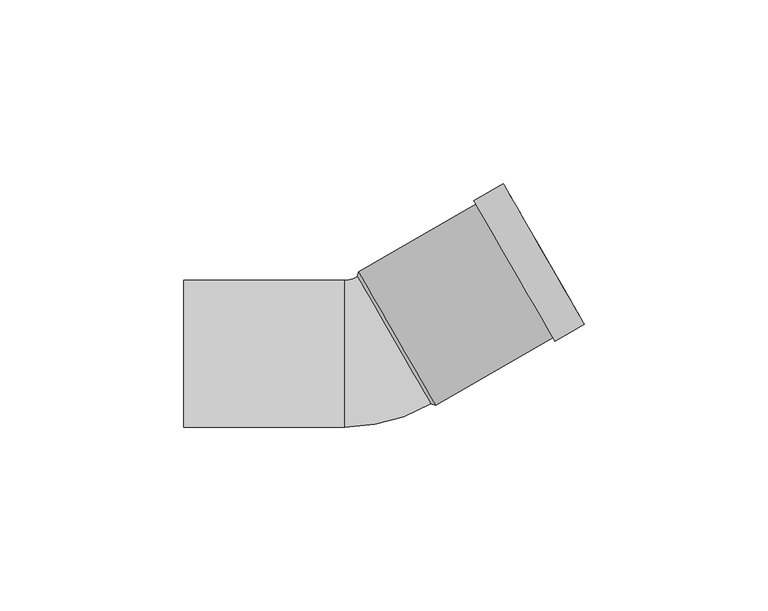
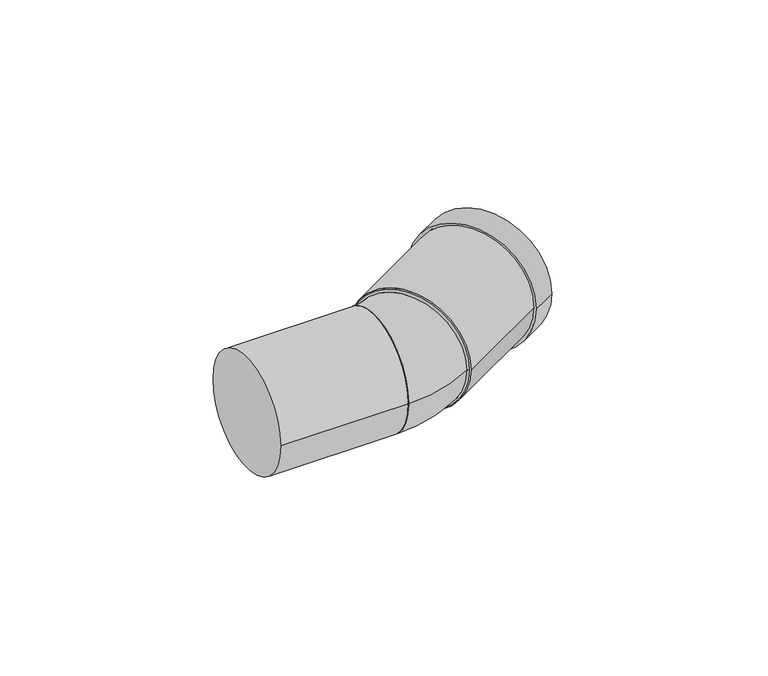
"""IFC4 building model written with IfcOpenShell, lengths in millimetres: pipe fitting geometry, Superdrain HT bend : Superdrain HT Bend."""

from ifc_helpers import new_model, si_unit, point, frame, origin, origin_2d, place, context, project, spatial, polyline, circle_curve, ellipse_curve, trimmed, segment, composite_curve, outline, extrude, source, transform, mapped, element, save
from ifc_brep_helpers import plane_surface, revolved_surface, advanced_brep


def pipe_fitting_0d2e54e3(model_context):
    return source(origin(), model_context, "Body", "SolidModel", [
        advanced_brep(
        [(16.2353829, -13.7205081, 0.0), (-3.7646171, 20.9205081, 0.0), (-7.2, -20.0, 0.0), (-7.2, 20.0, 0.0)],
        [
            (0, 1, circle_curve(frame((6.2353829, 3.6, 0.0), z_axis=(0.866025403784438, 0.5000000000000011, 0.0), x_axis=(-0.5000000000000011, 0.866025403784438, 0.0)), 20.0)),
            (1, 0, circle_curve(frame((6.2353829, 3.6, 0.0), z_axis=(0.8660254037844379, 0.5000000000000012, 0.0), x_axis=(-0.5000000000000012, 0.8660254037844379, 0.0)), 20.0)),
            (2, 3, circle_curve(frame((-7.2, 0.0, 0.0), z_axis=(-1.0, 0.0, 0.0), x_axis=(0.0, 1.0, 0.0)), 20.0)),
            (3, 2, circle_curve(frame((-7.2, 0.0, 0.0), z_axis=(-1.0, 0.0, 0.0), x_axis=(0.0, 1.0, 0.0)), 20.0)),
            (3, 1, circle_curve(frame((-7.2, 26.8707658, 0.0), z_axis=(0.0, 0.0, 1.0), x_axis=(1.0, 0.0, 0.0)), 6.8707658)),
            (0, 2, circle_curve(frame((-7.2, 26.8707658, 0.0), z_axis=(0.0, 0.0, -1.0), x_axis=(1.0, 0.0, 0.0)), 46.8707658)),
        ],
        [
            plane_surface(frame((6.2353829, 3.6, 0.0), z_axis=(0.866025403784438, 0.5000000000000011, 0.0), x_axis=(0.0, 0.0, -1.0))),
            plane_surface(frame((-7.2, 0.0, 0.0), z_axis=(-1.0, 0.0, 0.0), x_axis=(0.0, 0.0, -1.0))),
            revolved_surface(trimmed(ellipse_curve(frame((19.6707658, 26.8707658, 0.0), z_axis=(0.0, -1.0, 0.0), x_axis=(-1.0, 0.0, 0.0)), 20.0, 20.0), [point((-0.3292342, 26.8707658, 0.0))], [point((39.6707658, 26.8707658, 0.0))], True, "CARTESIAN"), (-7.2, 26.8707658, 0.0), (0.0, 0.0, 1.0)),
            revolved_surface(trimmed(ellipse_curve(frame((19.6707658, 26.8707658, 0.0), z_axis=(0.0, -1.0, 0.0), x_axis=(-1.0, 0.0, 0.0)), 20.0, 20.0), [point((39.6707658, 26.8707658, 0.0))], [point((-0.3292342, 26.8707658, 0.0))], True, "CARTESIAN"), (-7.2, 26.8707658, 0.0), (0.0, 0.0, 1.0)),
        ],
        [
            (0, [[1, 2]]),
            (1, [[3, 4]]),
            (2, [[-4, 5, -1, 6]]),
            (3, [[-3, -6, -2, -5]]),
        ],
    ),
        extrude(outline(composite_curve([segment(trimmed(circle_curve(origin_2d(), 21.0), [point((0.0, 21.0))], [point((0.0, -21.0))], False, "CARTESIAN"), True, "CONTINUOUS"), segment(trimmed(circle_curve(origin_2d(), 21.0), [point((0.0, -21.0))], [point((0.0, 21.0))], False, "CARTESIAN"), True, "CONTINUOUS")], self_intersect=False), holes=[composite_curve([segment(trimmed(circle_curve(origin_2d(), 20.0), [point((0.0, 20.0))], [point((0.0, -20.0))], True, "CARTESIAN"), True, "CONTINUOUS"), segment(trimmed(circle_curve(origin_2d(), 20.0), [point((0.0, -20.0))], [point((0.0, 20.0))], True, "CARTESIAN"), True, "CONTINUOUS")], self_intersect=False)]), frame((7.1014083, 4.1, 0.0), z_axis=(0.866025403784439, 0.4999999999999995, 0.0), x_axis=(0.0, 0.0, 1.0)), (0.0, 0.0, 1.0), 46.0),
        extrude(outline(composite_curve([segment(trimmed(circle_curve(origin_2d(), 22.05), [point((0.0, -22.05))], [point((0.0, 22.05))], False, "CARTESIAN"), True, "CONTINUOUS"), segment(trimmed(circle_curve(origin_2d(), 22.05), [point((0.0, 22.05))], [point((0.0, -22.05))], False, "CARTESIAN"), True, "CONTINUOUS")], self_intersect=False), holes=[composite_curve([segment(trimmed(circle_curve(origin_2d(), 20.0), [point((0.0, -20.0))], [point((0.0, 20.0))], True, "CARTESIAN"), True, "CONTINUOUS"), segment(trimmed(circle_curve(origin_2d(), 20.0), [point((0.0, 20.0))], [point((0.0, -20.0))], True, "CARTESIAN"), True, "CONTINUOUS")], self_intersect=False)]), frame((38.9711432, 22.5, 0.0), z_axis=(0.866025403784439, 0.4999999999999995, 0.0), x_axis=(0.0, 0.0, 1.0)), (0.0, 0.0, 1.0), 9.2),
        advanced_brep(
        [(17.6014083, -14.0865335, 0.0), (-3.3985917, 22.2865335, 0.0), (16.2353829, -13.7205081, 0.0), (-3.7646171, 20.9205081, 0.0)],
        [
            (0, 1, circle_curve(frame((7.1014083, 4.1, 0.0), z_axis=(0.8660254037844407, 0.4999999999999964, 0.0), x_axis=(0.4999999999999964, -0.8660254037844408, 0.0)), 21.0)),
            (1, 0, circle_curve(frame((7.1014083, 4.1, 0.0), z_axis=(0.8660254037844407, 0.4999999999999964, 0.0), x_axis=(-0.49999999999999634, 0.8660254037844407, 0.0)), 21.0)),
            (2, 3, circle_curve(frame((6.2353829, 3.6, 0.0), z_axis=(-0.8660254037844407, -0.4999999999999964, 0.0), x_axis=(-0.49999999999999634, 0.8660254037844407, 0.0)), 20.0)),
            (3, 2, circle_curve(frame((6.2353829, 3.6, 0.0), z_axis=(-0.8660254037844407, -0.4999999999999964, 0.0), x_axis=(0.4999999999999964, -0.8660254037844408, 0.0)), 20.0)),
            (3, 1),
            (0, 2),
        ],
        [
            plane_surface(frame((7.1014083, 4.1, 0.0), z_axis=(0.8660254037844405, 0.49999999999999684, 0.0), x_axis=(0.0, 0.0, -1.0))),
            plane_surface(frame((6.2353829, 3.6, 0.0), z_axis=(-0.8660254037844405, -0.49999999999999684, 0.0), x_axis=(0.0, 0.0, -1.0))),
            revolved_surface(polyline([(-3.764617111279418, 20.92050807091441, 0.0), (-3.3985917, 22.286533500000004, 0.0)]), (-11.0851252, -6.4, 0.0), (0.8660254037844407, 0.4999999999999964, 0.0)),
            revolved_surface(polyline([(16.23538289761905, -13.72050809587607, 0.0), (17.601408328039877, -14.086533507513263, 0.0)]), (-11.0851252, -6.4, 0.0), (0.8660254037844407, 0.4999999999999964, 0.0)),
        ],
        [
            (0, [[1, 2]]),
            (1, [[3, 4]]),
            (2, [[-4, 5, -1, 6]]),
            (3, [[-3, -6, -2, -5]]),
        ],
    ),
        extrude(outline(composite_curve([segment(trimmed(circle_curve(origin_2d(), 20.0), [point((-20.0, 0.0))], [point((20.0, 0.0))], False, "CARTESIAN"), True, "CONTINUOUS"), segment(trimmed(circle_curve(origin_2d(), 20.0), [point((20.0, 0.0))], [point((-20.0, 0.0))], False, "CARTESIAN"), True, "CONTINUOUS")], self_intersect=False)), frame((-51.0, 0.0, 0.0), z_axis=(1.0, 0.0, 0.0), x_axis=(0.0, 1.0, 0.0)), (0.0, 0.0, 1.0), 43.8),
    ])


if __name__ == "__main__":
    model = new_model("IFC4")
    model_context = context("Model", 3, world=origin())
    ifc_project = project(units=[si_unit("LENGTHUNIT", "METRE", prefix="MILLI")], contexts=[model_context])
    site = spatial("IfcSite", under=ifc_project)
    building = spatial("IfcBuilding", under=site)
    placement = place(None, origin())
    pipe_fitting_shape = pipe_fitting_0d2e54e3(model_context)
    element("IfcPipeFitting", 1, ObjectType="Superdrain HT bend : Superdrain HT Bend", at=placement, inside=building, context=model_context, shape_type="MappedRepresentation", body=[
        mapped(pipe_fitting_shape, transform((0.0, 0.0, 0.0), x_axis=(1.0, 0.0, 0.0), y_axis=(0.0, 1.0, 0.0), z_axis=(0.0, 0.0, 1.0))),
    ])
    save(model, "model.ifc")
